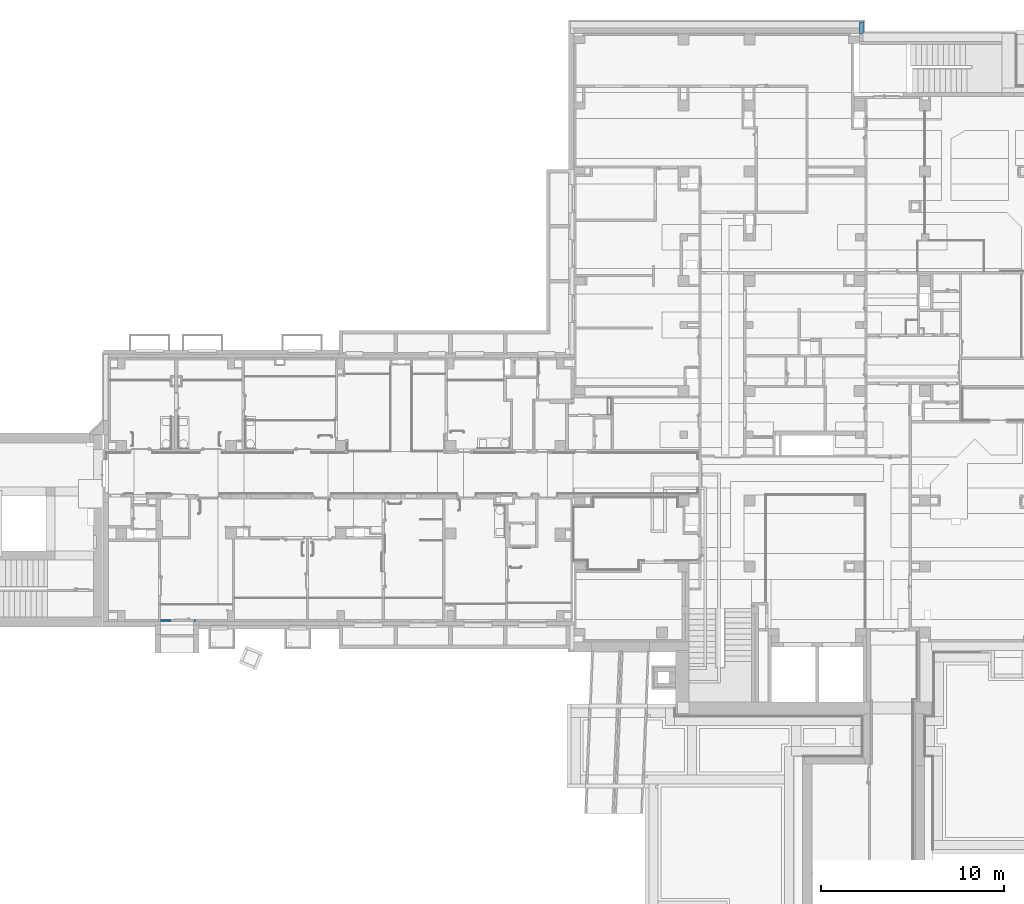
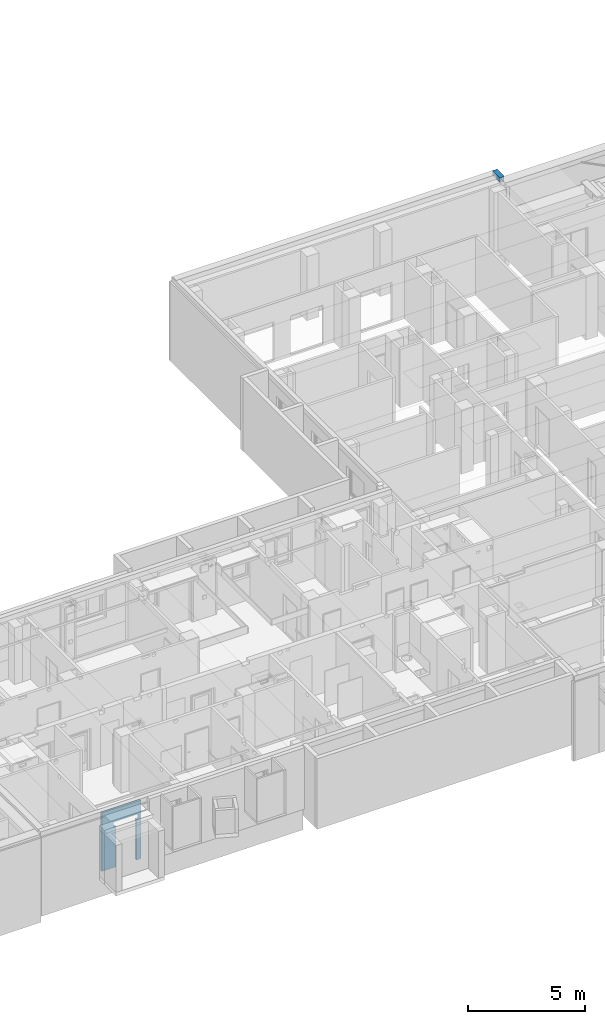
# One storey, part 47 of 84: 2 walls, 1 opening.
"""IFC4 building model written with IfcOpenShell, lengths in metres."""

from ifc_helpers import new_model, entity, si_unit, converted_unit, derived_unit, frame, origin, origin_with_axes, place, context, subcontext, project, spatial, polyline, outline, extrude, faceted_brep, material, layer, layer_set, layer_usage, element, save


model = new_model("IFC4")

# Units and contexts
model_context = context("Model", 3, precision=1e-05, world=origin())
body_context = subcontext(model_context, "Body", "Model", "MODEL_VIEW")
ifc_project = project(units=[si_unit("LENGTHUNIT", "METRE"), si_unit("AREAUNIT", "SQUARE_METRE"), si_unit("VOLUMEUNIT", "CUBIC_METRE"), si_unit("MASSUNIT", "GRAM", prefix="KILO"), converted_unit("PLANEANGLEUNIT", "DEGREE", entity("IfcPlaneAngleMeasure", 0.0174532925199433), si_unit("PLANEANGLEUNIT", "RADIAN"), dimensions=[0, 0, 0, 0, 0, 0, 0]), derived_unit("THERMALTRANSMITTANCEUNIT", [(si_unit("POWERUNIT", "WATT"), 1), (si_unit("THERMODYNAMICTEMPERATUREUNIT", "KELVIN"), -1), (si_unit("LENGTHUNIT", "METRE"), -2)]), derived_unit("VOLUMETRICFLOWRATEUNIT", [(si_unit("LENGTHUNIT", "METRE"), 3), (converted_unit("TIMEUNIT", "hour", entity("IfcTimeMeasure", 3600.0), si_unit("TIMEUNIT", "SECOND"), dimensions=[0, 0, 1, 0, 0, 0, 0]), -1), (si_unit("LENGTHUNIT", "METRE"), -1)])], contexts=[model_context])

# Site, building, storey
site_placement = place(None, origin())
site = spatial("IfcSite", under=ifc_project, at=site_placement, Name="3. ASŘ", CompositionType="ELEMENT")
building_placement = place(site_placement, origin())
building = spatial("IfcBuilding", under=site, at=building_placement, Name="Pavilon C", CompositionType="ELEMENT")
storey_placement = place(building_placement, frame((0.0, 0.0, -3.3)))
storey = spatial("IfcBuildingStorey", under=building, at=storey_placement, Name="Půdorys 1.PP", CompositionType="ELEMENT", Elevation=-3.3)

# Wall
ifc_material_1 = material(Name="ZELEZOBETONOVÁ KCE")
ifc_layer_1 = layer(ifc_material_1, 0.2)
ifc_material_2 = material(Name="LIGNOPOR")
ifc_layer_2 = layer(ifc_material_2, 0.025)
ifc_layer_set = layer_set([ifc_layer_1, ifc_layer_2])
ifc_layer_usage = layer_usage(ifc_layer_set, "AXIS2", "POSITIVE", 0.0)
wall_1_placement = place(storey_placement, frame((40.35, 33.37, 2.95), z_axis=(0.0, 0.0, 1.0), x_axis=(0.0, -1.0, 0.0)))
element("IfcWall", 1, at=wall_1_placement, inside=storey, material=ifc_layer_usage, context=body_context, shape_type="SweptSolid", body=[
    extrude(outline(polyline([(-0.620000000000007, 0.0), (0.0, 0.0), (0.0, 0.2), (-0.025, 0.2), (-0.025, 0.225), (-0.645000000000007, 0.225), (-0.645000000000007, 0.2), (-0.620000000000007, 0.2), (-0.620000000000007, 0.0)])), frame((0.620000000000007, 0.0, 0.0), z_axis=(0.0, 0.0, 1.0), x_axis=(1.0, 0.0, 0.0)), (0.0, 0.0, 1.0), 0.25),
])

# Wall, opening
ifc_material_3 = material(Name="YTONG 100")
wall_2_placement = place(storey_placement, frame((2.15, 0.600000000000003, -0.1)))
wall_2 = element("IfcWall", 2, at=wall_2_placement, inside=storey, material=ifc_material_3, Name="YTONG 100", context=body_context, shape_type="Brep", body=[
    faceted_brep([(0.575, 3.41060513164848e-16, 2.369), (1.825, 0.0, 2.369), (1.825, 0.1, 2.369), (0.575, 0.1, 2.369), (0.575, 0.1, 2.12), (1.825, 0.1, 2.12), (1.825, 0.0, 2.12), (0.575, 3.41060513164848e-16, 2.12), (0.0, 0.1, 0.0), (1.925, 0.1, 0.0), (1.925, 0.1, 3.05), (0.0, 0.1, 3.05), (1.925, 0.0, 0.0), (1.925, 0.0, 3.05), (0.0, 4.54747350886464e-16, 0.0), (0.0, 4.54747350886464e-16, 3.05)], [[[0, 1, 2, 3]], [[4, 5, 6, 7]], [[3, 4, 7, 0]], [[1, 6, 5, 2]], [[8, 9, 10, 11], [4, 3, 2, 5]], [[9, 12, 13, 10]], [[12, 14, 15, 13], [6, 1, 0, 7]], [[14, 8, 11, 15]], [[15, 11, 10, 13]], [[8, 14, 12, 9]]], orient=[[False], [False], [False], [False], [False, False], [False], [False, False], [False], [False], [False]]),
])
opening_placement = place(wall_2_placement, frame((1.7, 0.1, 0.0), z_axis=(0.0, -1.0, 0.0), x_axis=(0.0, 0.0, 1.0)))
element("IfcOpeningElement", 3, at=opening_placement, cuts=wall_2, Name="Dveřní otvor", ObjectType="Opening", context=body_context, shape_type="SweptSolid", body=[
    extrude(outline(polyline([(0.0, 1.0), (2.12, 1.0), (2.12, 0.0), (0.0, 0.0), (0.0, 1.0)])), origin_with_axes(), (0.0, 0.0, 1.0), 0.1),
])

save(model, "model.ifc")
